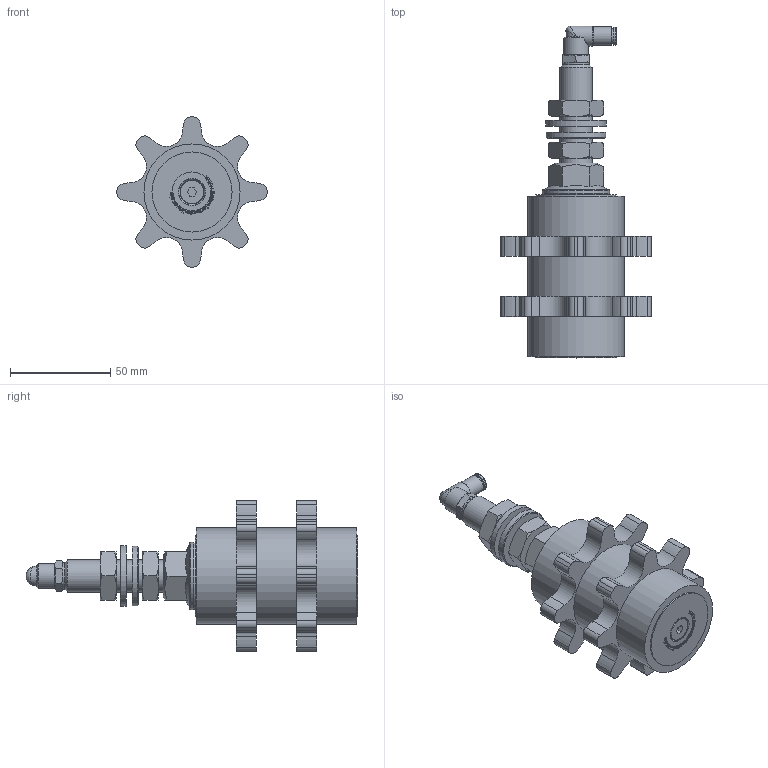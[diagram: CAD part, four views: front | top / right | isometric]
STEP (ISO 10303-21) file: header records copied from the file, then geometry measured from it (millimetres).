
FILE_DESCRIPTION (( 'STEP AP214' ), '1' );
FILE_NAME ('012_06_16B2_AZ.STEP', '2026-01-20T08:07:00', ( '' ), ( '' ), 'SwSTEP 2.0', 'SolidWorks 2022', '' );
FILE_SCHEMA (( 'AUTOMOTIVE_DESIGN' ));
Length unit declared in the file: millimetre
Products named in the file (9): 012_06_16B2_A_Kettenschmierritzel 16 B-2, Z08 - gerade; Mutter_M16; 012_06_16B2_AZ; Winkelsteckverschraubung_04_1_8; 214602-N2_GEW.-_1-8_1-8_1; Scheibe_M16; OR 7.2X1.9_1; DR4_NEU_1; R202201-I1-N2A_1
Assembly tree (10 placements, depth 3):
  012_06_16B2_AZ
    012_06_16B2_A_Kettenschmierritzel 16 B-2, Z08 - gerade
    Mutter_M16  x2
    Scheibe_M16  x2
    Winkelsteckverschraubung_04_1_8
      R202201-I1-N2A_1
      DR4_NEU_1
      214602-N2_GEW.-_1-8_1-8_1
      OR 7.2X1.9_1
Bounding box: 75 x 165.8 x 75 mm (x, y, z)
Volume: 10877 mm3; surface area: 49374.1 mm2
Topology: 8 solids, 50 shells, 379 faces, 1182 edges, 878 vertices
Faces by surface type: cylinder 182, plane 108, cone 79, bspline 6, torus 4
Full cylindrical faces by diameter (mm): 3 x1, 3.2 x1, 4.1 x2, 4.2 x4, 4.917 x1, 5 x20, 5.5 x1, 6 x2, 6.4 x1, 7.3 x1, 7.4 x1, 7.6 x1, 7.7 x1, 8.3 x1, 8.376 x2, 8.917 x1, 9 x3, 9.1 x1, 9.728 x1, 10 x1, 10.1 x2, 12.5 x1, 13 x1, 14 x3, 16 x1, 17 x2, 20 x3, 20.2 x1, 30 x2, 33.6 x1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
Entity records: 30309 total; most frequent: CARTESIAN_POINT 18987, DIRECTION 1769, ORIENTED_EDGE 1569, EDGE_CURVE 952, VERTEX_POINT 787, AXIS2_PLACEMENT_3D 728, EDGE_LOOP 530, FACE_OUTER_BOUND 422
